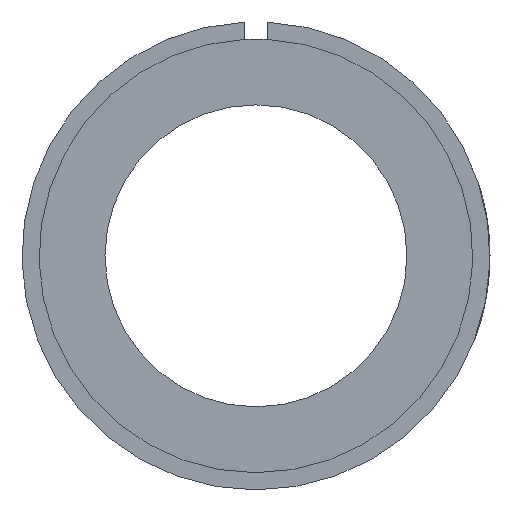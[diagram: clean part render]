
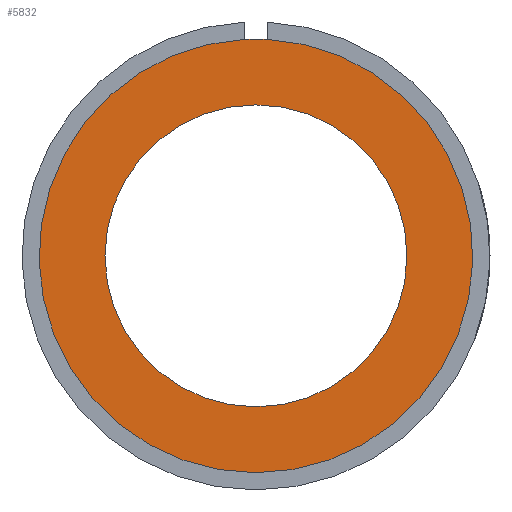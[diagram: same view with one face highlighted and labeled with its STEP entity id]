
A CAD part, left-side view. The second image highlights one B-rep face of the part: STEP entity #5832.
In plain terms, the highlighted planar face has unit normal (-1, 0, 0).
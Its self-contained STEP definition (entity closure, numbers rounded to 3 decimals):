
#126=PLANE('',#6286);
#388=CIRCLE('',#6261,20.);
#401=CIRCLE('',#6287,28.723);
#402=CIRCLE('',#6288,28.723);
#1810=ORIENTED_EDGE('',*,*,#3565,.F.);
#1811=ORIENTED_EDGE('',*,*,#3566,.F.);
#1812=ORIENTED_EDGE('',*,*,#3530,.T.);
#3530=EDGE_CURVE('',#4414,#4414,#388,.F.);
#3565=EDGE_CURVE('',#4437,#4438,#401,.T.);
#3566=EDGE_CURVE('',#4438,#4437,#402,.T.);
#4414=VERTEX_POINT('',#9172);
#4437=VERTEX_POINT('',#9243);
#4438=VERTEX_POINT('',#9244);
#5000=EDGE_LOOP('',(#1810,#1811));
#5001=EDGE_LOOP('',(#1812));
#5407=FACE_BOUND('',#5000,.T.);
#5408=FACE_BOUND('',#5001,.T.);
#5832=ADVANCED_FACE('',(#5407,#5408),#126,.T.);
#6261=AXIS2_PLACEMENT_3D('',#9171,#6869,#6870);
#6286=AXIS2_PLACEMENT_3D('',#9241,#6941,#6942);
#6287=AXIS2_PLACEMENT_3D('',#9242,#6943,#6944);
#6288=AXIS2_PLACEMENT_3D('',#9245,#6945,#6946);
#6869=DIRECTION('',(-1.,0.,0.));
#6870=DIRECTION('',(0.,0.,1.));
#6941=DIRECTION('',(-1.,0.,0.));
#6942=DIRECTION('',(0.,0.,-1.));
#6943=DIRECTION('',(1.,0.,0.));
#6944=DIRECTION('',(0.,0.,-1.));
#6945=DIRECTION('',(1.,0.,0.));
#6946=DIRECTION('',(0.,0.,-1.));
#9171=CARTESIAN_POINT('',(-37.5,0.,0.));
#9172=CARTESIAN_POINT('',(-37.5,0.,20.));
#9241=CARTESIAN_POINT('',(-37.5,0.,0.));
#9242=CARTESIAN_POINT('',(-37.5,0.,0.));
#9243=CARTESIAN_POINT('',(-37.5,1.5,28.684));
#9244=CARTESIAN_POINT('',(-37.5,-1.5,28.684));
#9245=CARTESIAN_POINT('',(-37.5,0.,0.));
